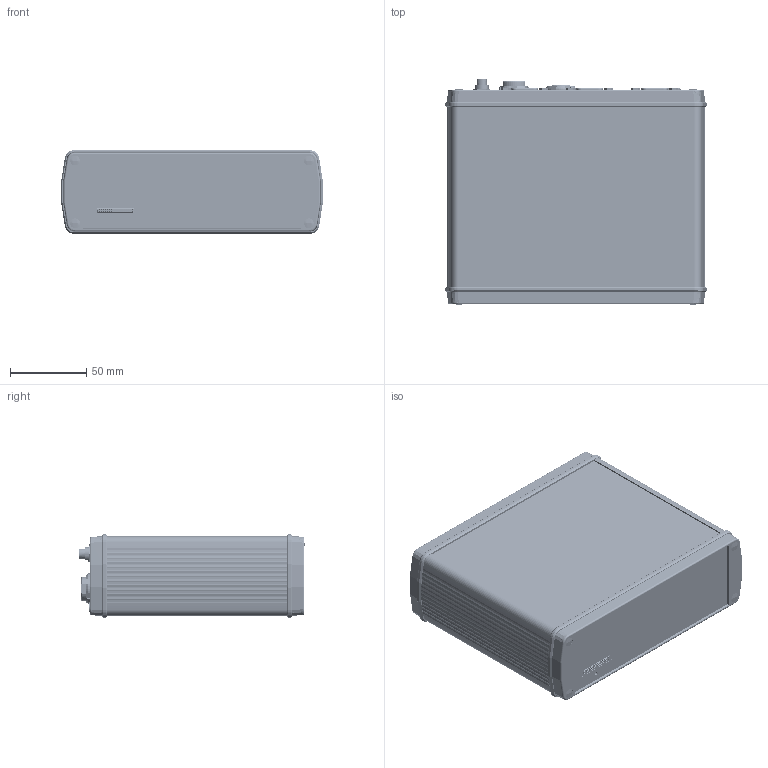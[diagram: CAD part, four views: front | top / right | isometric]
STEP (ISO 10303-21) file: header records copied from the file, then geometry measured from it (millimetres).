
FILE_DESCRIPTION(/* description */ (''),/* implementation_level */ '2;1');
FILE_NAME(/* name */ 'C:\Users\viskhp\Desktop\VX1135_2.stp',/* time_stamp */ '2019-11-26T07:16:44+01:00',/* author */ ('viskhp'),/* organization */ (''),/* preprocessor_version */ 'ST-DEVELOPER v17.2',/* originating_system */ 'Autodesk Inventor 2019',/* authorisation */ '');
FILE_SCHEMA (('AUTOMOTIVE_DESIGN { 1 0 10303 214 3 1 1 }'));
Products named in the file (1): VX1135
Bounding box: 171.01 x 147.32 x 54.65 mm (x, y, z)
Volume: 331314.1 mm3; surface area: 367867.8 mm2
Topology: 184 solids, 211 shells, 12251 faces, 33218 edges, 21884 vertices
Faces by surface type: plane 6699, cylinder 3223, bspline 1121, cone 673, torus 391, sphere 144
Full cylindrical faces by diameter (mm): 0.2 x6, 0.34 x1, 0.4 x1, 0.42 x27, 0.5 x30, 0.55 x14, 0.75 x8, 0.8 x36, 0.9 x59, 0.94 x28, 1 x17, 1.02 x41, 1.08 x27, 1.2 x17, 1.24 x12, 1.3 x2, 1.32 x2, 1.5 x6, 1.55 x3, 1.6 x10, 1.8 x6, 2 x80, 2.013 x1, 2.156 x6, 2.459 x4, 2.487 x6, 2.5 x14, 2.54 x6, 2.6 x1, 2.7 x14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
Entity records: 451383 total; most frequent: CARTESIAN_POINT 129074, ORIENTED_EDGE 66280, DIRECTION 62315, EDGE_CURVE 33140, VERTEX_POINT 21880, AXIS2_PLACEMENT_3D 20915, LINE 20485, VECTOR 20485
